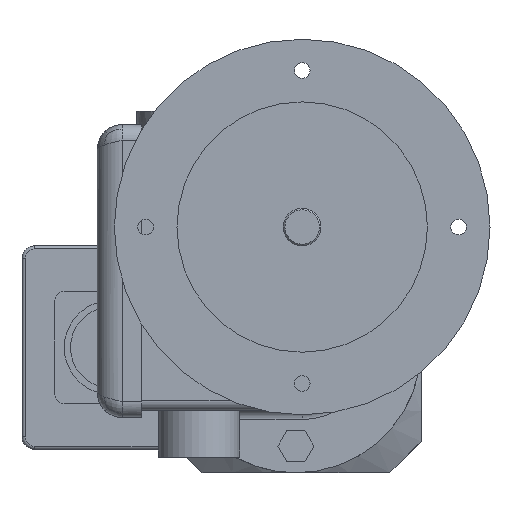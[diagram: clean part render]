
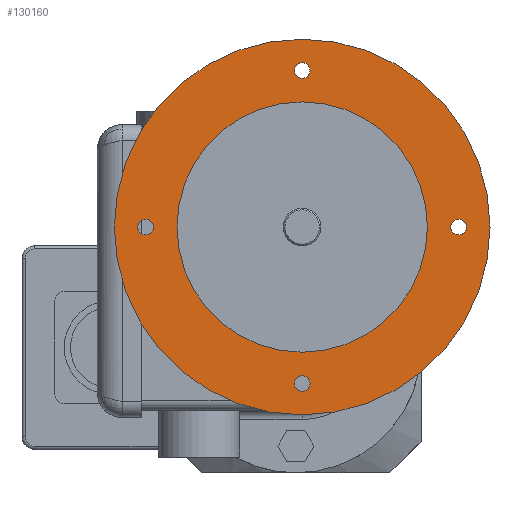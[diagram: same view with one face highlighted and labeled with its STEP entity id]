
A CAD part, left-side view. The second image highlights one B-rep face of the part: STEP entity #130160.
In plain terms, the highlighted planar face has unit normal (-1, 0, 0) as drawn and (0, 0, 1) by its records, which use the part's own axes.
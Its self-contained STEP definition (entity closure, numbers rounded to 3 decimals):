
#129080=CARTESIAN_POINT('',(-34.958,-296.478,220.));
#129090=VERTEX_POINT('',#129080);
#129170=CARTESIAN_POINT('',(-154.958,-296.478,220.));
#129180=VERTEX_POINT('',#129170);
#129210=CARTESIAN_POINT('',(-94.958,-296.478,220.));
#129220=DIRECTION('',(0.,0.,1.));
#129230=DIRECTION('',(1.,0.,0.));
#129240=AXIS2_PLACEMENT_3D('',#129210,#129220,#129230);
#129250=CIRCLE('',#129240,60.);
#129260=EDGE_CURVE('',#129180,#129090,#129250,.T.);
#129310=CARTESIAN_POINT('',(-91.592,-279.62,220.));
#129320=DIRECTION('',(0.,0.,1.));
#129330=DIRECTION('',(1.,0.,0.));
#129340=AXIS2_PLACEMENT_3D('',#129310,#129320,#129330);
#129350=PLANE('',#129340);
#129360=EDGE_CURVE('',#129090,#129180,#129250,.T.);
#129370=ORIENTED_EDGE('',*,*,#129360,.T.);
#129380=ORIENTED_EDGE('',*,*,#129260,.T.);
#129390=EDGE_LOOP('',(#129380,#129370));
#129400=FACE_OUTER_BOUND('',#129390,.T.);
#129410=CARTESIAN_POINT('',(-94.958,-296.478,220.));
#129420=DIRECTION('',(0.,0.,1.));
#129430=DIRECTION('',(1.,0.,0.));
#129440=AXIS2_PLACEMENT_3D('',#129410,#129420,#129430);
#129450=CIRCLE('',#129440,40.);
#129460=CARTESIAN_POINT('',(-54.958,-296.478,220.));
#129470=VERTEX_POINT('',#129460);
#129480=CARTESIAN_POINT('',(-134.958,-296.478,220.));
#129490=VERTEX_POINT('',#129480);
#129500=EDGE_CURVE('',#129470,#129490,#129450,.T.);
#129510=ORIENTED_EDGE('',*,*,#129500,.F.);
#129520=EDGE_CURVE('',#129490,#129470,#129450,.T.);
#129530=ORIENTED_EDGE('',*,*,#129520,.F.);
#129540=EDGE_LOOP('',(#129530,#129510));
#129550=FACE_BOUND('',#129540,.T.);
#129560=CARTESIAN_POINT('',(-44.958,-296.478,220.));
#129570=DIRECTION('',(0.,0.,1.));
#129580=DIRECTION('',(-1.,0.,0.));
#129590=AXIS2_PLACEMENT_3D('',#129560,#129570,#129580);
#129600=CIRCLE('',#129590,2.5);
#129610=CARTESIAN_POINT('',(-47.458,-296.478,220.));
#129620=VERTEX_POINT('',#129610);
#129630=CARTESIAN_POINT('',(-42.458,-296.478,220.));
#129640=VERTEX_POINT('',#129630);
#129650=EDGE_CURVE('',#129620,#129640,#129600,.T.);
#129660=ORIENTED_EDGE('',*,*,#129650,.F.);
#129670=EDGE_CURVE('',#129640,#129620,#129600,.T.);
#129680=ORIENTED_EDGE('',*,*,#129670,.F.);
#129690=EDGE_LOOP('',(#129680,#129660));
#129700=FACE_BOUND('',#129690,.T.);
#129710=CARTESIAN_POINT('',(-94.958,-346.478,220.));
#129720=DIRECTION('',(0.,0.,1.));
#129730=DIRECTION('',(0.,1.,0.));
#129740=AXIS2_PLACEMENT_3D('',#129710,#129720,#129730);
#129750=CIRCLE('',#129740,2.5);
#129760=CARTESIAN_POINT('',(-94.958,-343.978,220.));
#129770=VERTEX_POINT('',#129760);
#129780=CARTESIAN_POINT('',(-94.958,-348.978,220.));
#129790=VERTEX_POINT('',#129780);
#129800=EDGE_CURVE('',#129770,#129790,#129750,.T.);
#129810=ORIENTED_EDGE('',*,*,#129800,.F.);
#129820=EDGE_CURVE('',#129790,#129770,#129750,.T.);
#129830=ORIENTED_EDGE('',*,*,#129820,.F.);
#129840=EDGE_LOOP('',(#129830,#129810));
#129850=FACE_BOUND('',#129840,.T.);
#129860=CARTESIAN_POINT('',(-144.958,-296.478,220.));
#129870=DIRECTION('',(0.,0.,1.));
#129880=DIRECTION('',(1.,0.,0.));
#129890=AXIS2_PLACEMENT_3D('',#129860,#129870,#129880);
#129900=CIRCLE('',#129890,2.5);
#129910=CARTESIAN_POINT('',(-142.458,-296.478,220.));
#129920=VERTEX_POINT('',#129910);
#129930=CARTESIAN_POINT('',(-147.458,-296.478,220.));
#129940=VERTEX_POINT('',#129930);
#129950=EDGE_CURVE('',#129920,#129940,#129900,.T.);
#129960=ORIENTED_EDGE('',*,*,#129950,.F.);
#129970=EDGE_CURVE('',#129940,#129920,#129900,.T.);
#129980=ORIENTED_EDGE('',*,*,#129970,.F.);
#129990=EDGE_LOOP('',(#129980,#129960));
#130000=FACE_BOUND('',#129990,.T.);
#130010=CARTESIAN_POINT('',(-94.958,-246.478,220.));
#130020=DIRECTION('',(0.,0.,1.));
#130030=DIRECTION('',(0.,-1.,0.));
#130040=AXIS2_PLACEMENT_3D('',#130010,#130020,#130030);
#130050=CIRCLE('',#130040,2.5);
#130060=CARTESIAN_POINT('',(-94.958,-248.978,220.));
#130070=VERTEX_POINT('',#130060);
#130080=CARTESIAN_POINT('',(-94.958,-243.978,220.));
#130090=VERTEX_POINT('',#130080);
#130100=EDGE_CURVE('',#130070,#130090,#130050,.T.);
#130110=ORIENTED_EDGE('',*,*,#130100,.F.);
#130120=EDGE_CURVE('',#130090,#130070,#130050,.T.);
#130130=ORIENTED_EDGE('',*,*,#130120,.F.);
#130140=EDGE_LOOP('',(#130130,#130110));
#130150=FACE_BOUND('',#130140,.T.);
#130160=ADVANCED_FACE('',(#129400,#129550,#129700,#129850,#130000,
#130150),#129350,.T.);
